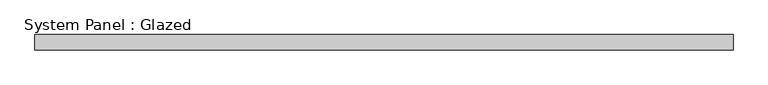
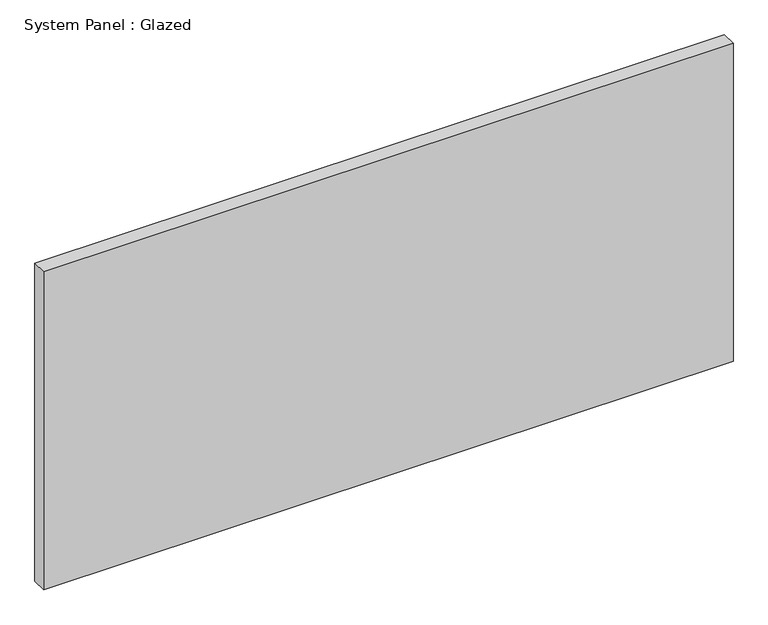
"""IFC4 building model written with IfcOpenShell, lengths in millimetres: plate geometry, System Panel : Glazed."""

from ifc_helpers import new_model, si_unit, origin, origin_with_axes, place, context, project, spatial, polyline, outline, extrude, source, transform, mapped, element, save


def system_panel_glazed_6ab21abb(model_context):
    return source(origin(), model_context, "Body", "SweptSolid", [
        extrude(outline(polyline([(586.3065357, 19.05), (-586.3065357, 19.05), (-586.3065357, 44.45), (586.3065357, 44.45), (586.3065357, 19.05)])), origin_with_axes(), (0.0, 0.0, 1.0), 571.5),
    ])


if __name__ == "__main__":
    model = new_model("IFC4")
    model_context = context("Model", 3, world=origin())
    ifc_project = project(units=[si_unit("LENGTHUNIT", "METRE", prefix="MILLI")], contexts=[model_context])
    site = spatial("IfcSite", under=ifc_project)
    building = spatial("IfcBuilding", under=site)
    placement = place(None, origin())
    system_panel_glazed_shape = system_panel_glazed_6ab21abb(model_context)
    element("IfcPlate", 1, ObjectType="System Panel : Glazed", at=placement, inside=building, context=model_context, shape_type="MappedRepresentation", body=[
        mapped(system_panel_glazed_shape, transform((0.0, 0.0, 0.0), x_axis=(1.0, 0.0, 0.0), y_axis=(0.0, 1.0, 0.0), z_axis=(0.0, 0.0, 1.0))),
    ])
    save(model, "model.ifc")
